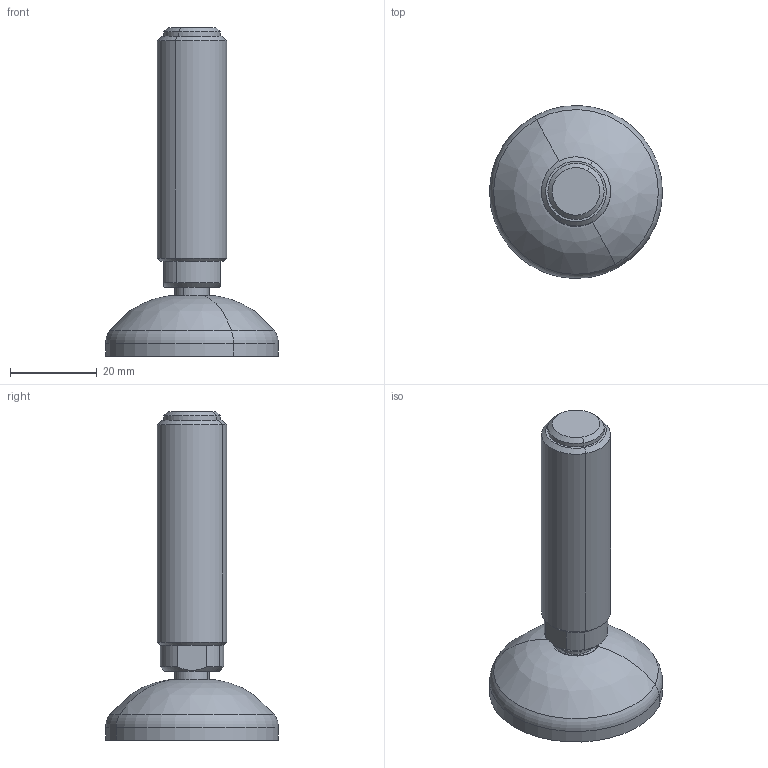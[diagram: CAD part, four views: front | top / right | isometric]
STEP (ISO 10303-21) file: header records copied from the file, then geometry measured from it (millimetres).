
FILE_DESCRIPTION(('CATIA V5 STEP Exchange'),'2;1');
FILE_NAME('X:\CODICI MOVEX\3D per clienti\Daryna Itsenko\16-01-2014\P90301_01.stp','2014-01-16T16:21:29+00:00',('none'),('none'),'CATIA Version 5 Release 21 SP 1 (IN-10)','CATIA V5 STEP AP203','none');
FILE_SCHEMA(('CONFIG_CONTROL_DESIGN'));
Length unit declared in the file: millimetre
Products named in the file (1): P90301
Assembly tree (2 placements, depth 2):
  P90301
    #58
    #713
Bounding box: 39.99 x 39.99 x 76 mm (x, y, z)
Volume: 20003.1 mm3; surface area: 10317.6 mm2
Topology: 2 solids, 4 shells, 559 faces, 1592 edges, 1043 vertices
Faces by surface type: plane 464, torus 30, cylinder 22, revolution 19, sphere 16, cone 8
Entity records: 20205 total; most frequent: CARTESIAN_POINT 7942, ORIENTED_EDGE 3172, EDGE_CURVE 1586, DIRECTION 1542, VERTEX_POINT 1043, B_SPLINE_CURVE_WITH_KNOTS 990, AXIS2_PLACEMENT_3D 610, EDGE_LOOP 569
